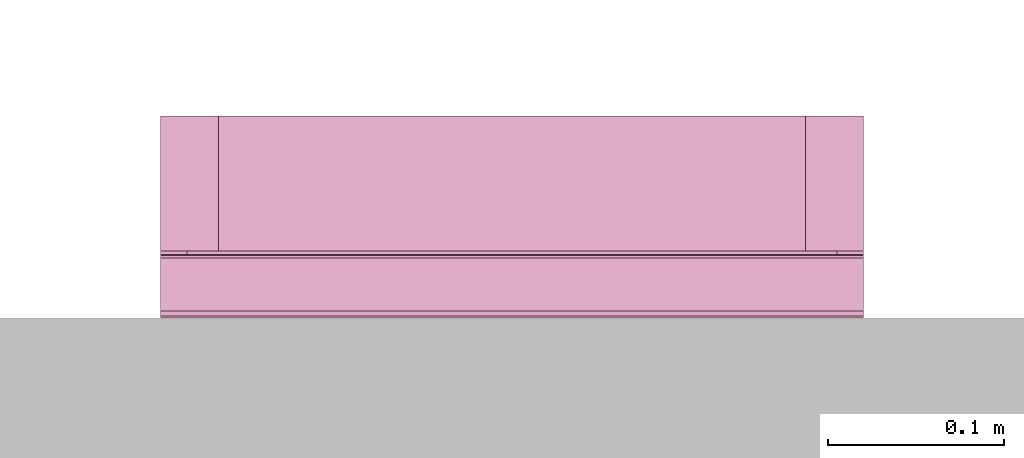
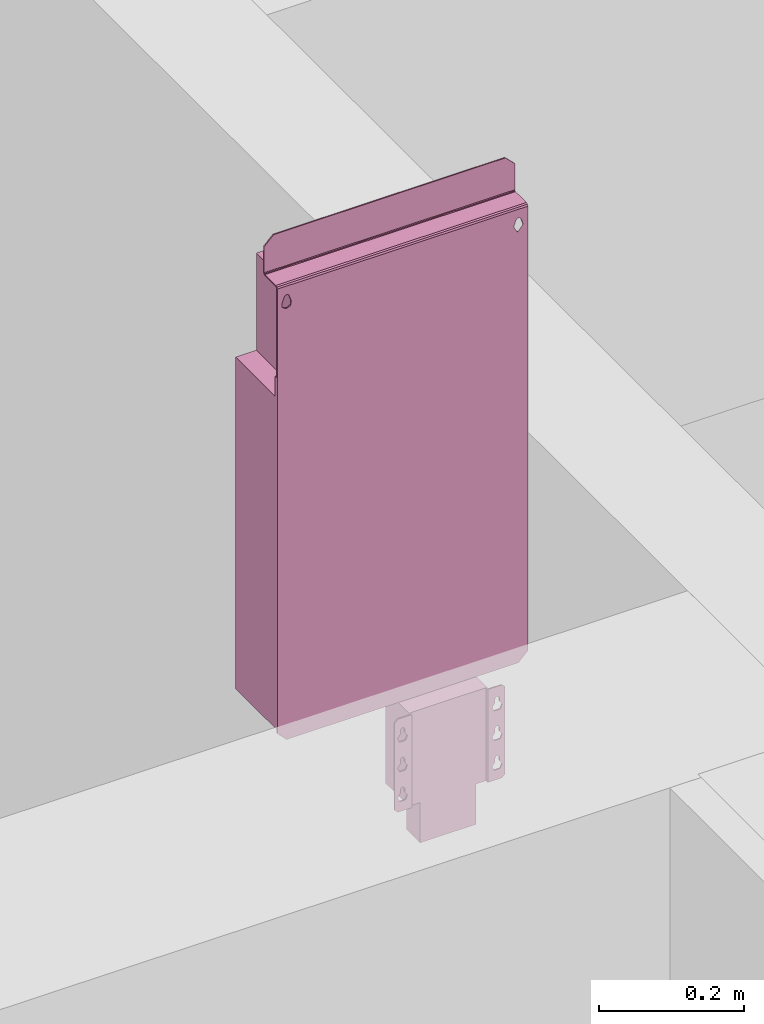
# One storey, part 14 of 14: 1 transport element.
"""IFC2X3 building model written with IfcOpenShell, lengths in millimetres."""

from ifc_helpers import new_model, entity, si_unit, converted_unit, derived_unit, direction, frame, origin, place, context, subcontext, project, spatial, faceted_brep, source, transform, mapped, type_object, type_shapes, element, save


model = new_model("IFC2X3")

# Units and contexts
model_context = context("Model", 3, precision=0.01, world=origin(), true_north=direction((6.12303176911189e-17, 1.0)))
body_context = subcontext(model_context, "Body", "Model", "MODEL_VIEW")
ifc_project = project(units=[si_unit("LENGTHUNIT", "METRE", prefix="MILLI"), si_unit("AREAUNIT", "SQUARE_METRE"), si_unit("VOLUMEUNIT", "CUBIC_METRE"), converted_unit("PLANEANGLEUNIT", "DEGREE", entity("IfcRatioMeasure", 0.0174532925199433), si_unit("PLANEANGLEUNIT", "RADIAN"), dimensions=[0, 0, 0, 0, 0, 0, 0]), si_unit("MASSUNIT", "GRAM", prefix="KILO"), derived_unit("MASSDENSITYUNIT", [(si_unit("MASSUNIT", "GRAM", prefix="KILO"), 1), (si_unit("LENGTHUNIT", "METRE"), -3)]), si_unit("TIMEUNIT", "SECOND"), si_unit("FREQUENCYUNIT", "HERTZ"), si_unit("THERMODYNAMICTEMPERATUREUNIT", "DEGREE_CELSIUS"), derived_unit("THERMALTRANSMITTANCEUNIT", [(si_unit("MASSUNIT", "GRAM", prefix="KILO"), 1), (si_unit("THERMODYNAMICTEMPERATUREUNIT", "KELVIN"), -1), (si_unit("TIMEUNIT", "SECOND"), -3)]), derived_unit("VOLUMETRICFLOWRATEUNIT", [(si_unit("LENGTHUNIT", "METRE"), 3), (si_unit("TIMEUNIT", "SECOND"), -1)]), si_unit("ELECTRICCURRENTUNIT", "AMPERE"), si_unit("ELECTRICVOLTAGEUNIT", "VOLT"), si_unit("POWERUNIT", "WATT"), si_unit("FORCEUNIT", "NEWTON", prefix="KILO"), si_unit("ILLUMINANCEUNIT", "LUX"), si_unit("LUMINOUSFLUXUNIT", "LUMEN"), si_unit("LUMINOUSINTENSITYUNIT", "CANDELA"), derived_unit("USERDEFINED", [(si_unit("MASSUNIT", "GRAM", prefix="KILO"), -1), (si_unit("LENGTHUNIT", "METRE"), -2), (si_unit("TIMEUNIT", "SECOND"), 3), (si_unit("LUMINOUSFLUXUNIT", "LUMEN"), 1)]), derived_unit("LINEARVELOCITYUNIT", [(si_unit("LENGTHUNIT", "METRE"), 1), (si_unit("TIMEUNIT", "SECOND"), -1)]), si_unit("PRESSUREUNIT", "PASCAL"), derived_unit("USERDEFINED", [(si_unit("LENGTHUNIT", "METRE"), -2), (si_unit("MASSUNIT", "GRAM", prefix="KILO"), 1), (si_unit("TIMEUNIT", "SECOND"), -2)])], contexts=[model_context])

# Site, building, storey, space
site_placement = place(None, frame((-151.875543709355, 2715.0, 0.0)))
site = spatial("IfcSite", under=ifc_project, at=site_placement, Name="Surface", CompositionType="ELEMENT")
building_placement = place(site_placement, origin())
building = spatial("IfcBuilding", under=site, at=building_placement, CompositionType="ELEMENT")
storey_placement = place(building_placement, frame((0.0, 0.0, 3875.0)))
storey = spatial("IfcBuildingStorey", under=building, at=storey_placement, Name="uus 2 korrus", CompositionType="ELEMENT", Elevation=3875.00000000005)
space_placement = place(storey_placement, origin())
space = spatial("IfcSpace", under=storey, at=space_placement, Name="226a", CompositionType="ELEMENT", InteriorOrExteriorSpace="INTERNAL")

# Transport element
transport_element_type = type_object("IfcTransportElementType", Name="KONE_DRIVE_KDL16S_M500_Wall_Fixed_Short_Backplate_KCE_LH")
shared_shape = source(origin(), body_context, "Body", "Brep", [
    faceted_brep([(-13.0, -932.0, 70.0), (-138.0, -932.0, 70.0), (-138.0, -932.0, 2.0), (-158.500000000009, -932.0, 2.0), (-158.500000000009, -932.0, 0.0), (-136.0, -932.0, 0.0), (-136.0, -932.0, 5.0), (-15.0, -932.0, 5.0), (-15.0, -932.0, 0.0), (7.50000000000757, -932.0, 0.0), (7.50000000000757, -932.0, 2.0), (-13.0, -932.0, 2.0), (-138.0, -775.0, 70.0), (-13.0, -775.0, 70.0), (-13.0, -775.0, 2.0), (7.50000000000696, -775.0, 2.0), (7.50000000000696, -775.0, 0.0), (-15.0, -775.0, 0.0), (-15.0, -775.0, 5.0), (-136.0, -775.0, 5.0), (-136.0, -775.0, 0.0), (-158.500000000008, -775.0, 0.0), (-158.500000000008, -775.0, 2.0), (-138.0, -775.0, 2.0), (-143.035081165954, -907.75162311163, 2.0), (-146.221250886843, -914.915883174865, 2.0), (-143.035081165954, -857.75162311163, 2.0), (-143.035081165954, -807.75162311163, 2.0), (-147.500000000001, -795.0, 2.0), (-149.250000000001, -791.968911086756, 2.0), (-152.750000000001, -791.968911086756, 2.0), (-163.500000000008, -780.0, 2.0), (-154.500000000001, -795.0, 2.0), (-158.964918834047, -807.75162311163, 2.0), (-158.964918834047, -857.75162311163, 2.0), (-163.500000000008, -927.0, 2.0), (-155.778749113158, -914.915883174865, 2.0), (-158.964918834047, -907.75162311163, 2.0), (-154.5, -895.0, 2.0), (-154.5, -901.306252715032, 2.0), (-155.778749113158, -864.915883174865, 2.0), (-152.75, -891.968911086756, 2.0), (-149.25, -891.968911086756, 2.0), (-146.221250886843, -864.915883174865, 2.0), (-147.5, -895.0, 2.0), (-147.5, -901.306252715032, 2.0), (-154.5, -845.0, 2.0), (-154.500000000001, -851.306252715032, 2.0), (-155.778749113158, -814.915883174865, 2.0), (-152.75, -841.968911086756, 2.0), (-146.221250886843, -814.915883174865, 2.0), (-149.25, -841.968911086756, 2.0), (-147.5, -845.0, 2.0), (-147.5, -851.306252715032, 2.0), (-147.5, -801.306252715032, 2.0), (-154.500000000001, -801.306252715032, 2.0), (12.5000000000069, -927.0, 2.0), (7.96491883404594, -907.75162311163, 2.0), (4.77874911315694, -914.915883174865, 2.0), (7.96491883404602, -857.75162311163, 2.0), (12.5000000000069, -780.0, 2.0), (7.9649188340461, -807.75162311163, 2.0), (3.4999999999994, -795.0, 2.0), (1.74999999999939, -791.968911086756, 2.0), (-1.75000000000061, -791.968911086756, 2.0), (-3.5000000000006, -795.0, 2.0), (-7.96491883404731, -807.75162311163, 2.0), (-7.9649188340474, -857.75162311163, 2.0), (-7.96491883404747, -907.75162311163, 2.0), (-4.77874911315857, -914.915883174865, 2.0), (-3.50000000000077, -895.0, 2.0), (-3.50000000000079, -901.306252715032, 2.0), (-4.77874911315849, -864.915883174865, 2.0), (-1.75000000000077, -891.968911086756, 2.0), (4.77874911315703, -864.915883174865, 2.0), (1.74999999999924, -891.968911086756, 2.0), (3.49999999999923, -895.0, 2.0), (3.49999999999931, -901.306252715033, 2.0), (-3.50000000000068, -845.0, 2.0), (-3.5000000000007, -851.306252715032, 2.0), (-4.77874911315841, -814.915883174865, 2.0), (-1.75000000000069, -841.968911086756, 2.0), (1.74999999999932, -841.968911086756, 2.0), (4.77874911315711, -814.915883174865, 2.0), (3.49999999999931, -845.0, 2.0), (3.4999999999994, -851.306252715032, 2.0), (-3.50000000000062, -801.306252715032, 2.0), (3.49999999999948, -801.306252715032, 2.0), (-163.500000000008, -927.0, 0.0), (-163.500000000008, -780.0, 0.0), (-158.964918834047, -907.75162311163, 0.0), (-155.778749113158, -914.915883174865, 0.0), (-158.964918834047, -857.75162311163, 0.0), (-158.964918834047, -807.75162311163, 0.0), (-154.500000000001, -795.0, 0.0), (-152.750000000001, -791.968911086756, 0.0), (-149.250000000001, -791.968911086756, 0.0), (-147.500000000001, -795.0, 0.0), (-143.035081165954, -807.75162311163, 0.0), (-143.035081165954, -857.75162311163, 0.0), (-143.035081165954, -907.75162311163, 0.0), (-146.221250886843, -914.915883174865, 0.0), (-147.5, -895.0, 0.0), (-147.5, -901.306252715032, 0.0), (-146.221250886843, -864.915883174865, 0.0), (-149.25, -891.968911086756, 0.0), (-155.778749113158, -864.915883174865, 0.0), (-152.75, -891.968911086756, 0.0), (-154.5, -895.0, 0.0), (-154.5, -901.306252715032, 0.0), (-147.5, -845.0, 0.0), (-147.5, -851.306252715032, 0.0), (-146.221250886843, -814.915883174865, 0.0), (-149.25, -841.968911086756, 0.0), (-152.75, -841.968911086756, 0.0), (-155.778749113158, -814.915883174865, 0.0), (-154.5, -845.0, 0.0), (-154.5, -851.306252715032, 0.0), (-147.500000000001, -801.306252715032, 0.0), (-154.500000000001, -801.306252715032, 0.0), (-7.96491883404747, -907.75162311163, 0.0), (-4.77874911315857, -914.915883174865, 0.0), (-7.9649188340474, -857.75162311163, 0.0), (-7.96491883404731, -807.75162311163, 0.0), (-3.5000000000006, -795.0, 0.0), (-1.75000000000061, -791.968911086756, 0.0), (1.74999999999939, -791.968911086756, 0.0), (12.5000000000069, -780.0, 0.0), (3.4999999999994, -795.0, 0.0), (7.9649188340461, -807.75162311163, 0.0), (7.96491883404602, -857.75162311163, 0.0), (12.5000000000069, -927.0, 0.0), (4.77874911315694, -914.915883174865, 0.0), (7.96491883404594, -907.75162311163, 0.0), (3.49999999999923, -895.0, 0.0), (3.49999999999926, -901.306252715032, 0.0), (4.77874911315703, -864.915883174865, 0.0), (1.74999999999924, -891.968911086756, 0.0), (-1.75000000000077, -891.968911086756, 0.0), (-4.77874911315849, -864.915883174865, 0.0), (-3.50000000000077, -895.0, 0.0), (-3.50000000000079, -901.306252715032, 0.0), (3.49999999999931, -845.0, 0.0), (3.49999999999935, -851.306252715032, 0.0), (4.77874911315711, -814.915883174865, 0.0), (1.74999999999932, -841.968911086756, 0.0), (-4.77874911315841, -814.915883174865, 0.0), (-1.75000000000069, -841.968911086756, 0.0), (-3.50000000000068, -845.0, 0.0), (-3.5000000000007, -851.306252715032, 0.0), (-3.50000000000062, -801.306252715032, 0.0), (3.49999999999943, -801.306252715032, 0.0)], [[[0, 1, 2, 3, 4, 5, 6, 7, 8, 9, 10, 11]], [[12, 13, 14, 15, 16, 17, 18, 19, 20, 21, 22, 23]], [[1, 0, 13, 12]], [[2, 1, 12, 23]], [[2, 24, 25]], [[24, 2, 26]], [[2, 25, 3]], [[2, 23, 26]], [[26, 23, 27]], [[27, 23, 28]], [[29, 28, 23]], [[23, 22, 29]], [[30, 29, 22]], [[31, 30, 22]], [[30, 31, 32]], [[31, 33, 32]], [[33, 31, 34]], [[35, 34, 31]], [[3, 36, 35]], [[35, 37, 34]], [[37, 35, 36]], [[36, 3, 25]], [[34, 37, 38]], [[38, 37, 39]], [[34, 38, 40]], [[38, 41, 40]], [[41, 42, 40]], [[40, 42, 43]], [[43, 42, 44]], [[24, 44, 45]], [[26, 43, 44]], [[26, 44, 24]], [[46, 33, 34]], [[34, 47, 46]], [[48, 33, 46]], [[49, 48, 46]], [[49, 50, 48]], [[49, 51, 50]], [[52, 50, 51]], [[26, 52, 53]], [[50, 52, 27]], [[27, 52, 26]], [[28, 54, 27]], [[32, 33, 55]], [[2, 24, 25]], [[24, 2, 26]], [[2, 25, 3]], [[2, 23, 26]], [[26, 23, 27]], [[27, 23, 28]], [[29, 28, 23]], [[23, 22, 29]], [[30, 29, 22]], [[31, 30, 22]], [[30, 31, 32]], [[31, 33, 32]], [[33, 31, 34]], [[35, 34, 31]], [[3, 36, 35]], [[35, 37, 34]], [[37, 35, 36]], [[36, 3, 25]], [[34, 37, 38]], [[38, 37, 39]], [[34, 38, 40]], [[38, 41, 40]], [[41, 42, 40]], [[40, 42, 43]], [[43, 42, 44]], [[24, 44, 45]], [[26, 43, 44]], [[26, 44, 24]], [[46, 33, 34]], [[34, 47, 46]], [[48, 33, 46]], [[49, 48, 46]], [[49, 50, 48]], [[49, 51, 50]], [[52, 50, 51]], [[26, 52, 53]], [[50, 52, 27]], [[27, 52, 26]], [[28, 54, 27]], [[32, 33, 55]], [[56, 57, 58]], [[57, 56, 59]], [[58, 10, 56]], [[56, 60, 59]], [[59, 60, 61]], [[62, 61, 60]], [[63, 62, 60]], [[60, 15, 63]], [[15, 64, 63]], [[64, 15, 14]], [[14, 65, 64]], [[66, 65, 14]], [[14, 67, 66]], [[11, 67, 14]], [[11, 68, 67]], [[68, 11, 69]], [[69, 11, 10]], [[10, 58, 69]], [[70, 67, 68]], [[71, 70, 68]], [[70, 72, 67]], [[72, 70, 73]], [[74, 72, 73]], [[74, 73, 75]], [[75, 76, 74]], [[59, 74, 76]], [[77, 57, 76]], [[76, 57, 59]], [[66, 67, 78]], [[79, 78, 67]], [[78, 80, 66]], [[80, 78, 81]], [[81, 82, 80]], [[83, 80, 82]], [[84, 83, 82]], [[61, 83, 84]], [[85, 59, 84]], [[59, 61, 84]], [[65, 66, 86]], [[87, 61, 62]], [[88, 35, 31, 89]], [[88, 90, 91]], [[90, 88, 92]], [[91, 4, 88]], [[88, 89, 92]], [[92, 89, 93]], [[94, 93, 89]], [[95, 94, 89]], [[89, 21, 95]], [[21, 96, 95]], [[96, 21, 20]], [[20, 97, 96]], [[98, 97, 20]], [[20, 99, 98]], [[5, 99, 20]], [[5, 100, 99]], [[100, 5, 101]], [[101, 5, 4]], [[4, 91, 101]], [[102, 99, 100]], [[103, 102, 100]], [[102, 104, 99]], [[104, 102, 105]], [[106, 104, 105]], [[106, 105, 107]], [[107, 108, 106]], [[92, 106, 108]], [[109, 90, 108]], [[108, 90, 92]], [[98, 99, 110]], [[111, 110, 99]], [[110, 112, 98]], [[112, 110, 113]], [[113, 114, 112]], [[115, 112, 114]], [[116, 115, 114]], [[93, 115, 116]], [[117, 92, 116]], [[92, 93, 116]], [[97, 98, 118]], [[119, 93, 94]], [[88, 90, 91]], [[90, 88, 92]], [[91, 4, 88]], [[88, 89, 92]], [[92, 89, 93]], [[94, 93, 89]], [[95, 94, 89]], [[89, 21, 95]], [[21, 96, 95]], [[96, 21, 20]], [[20, 97, 96]], [[98, 97, 20]], [[20, 99, 98]], [[5, 99, 20]], [[5, 100, 99]], [[100, 5, 101]], [[101, 5, 4]], [[4, 91, 101]], [[102, 99, 100]], [[103, 102, 100]], [[102, 104, 99]], [[104, 102, 105]], [[106, 104, 105]], [[106, 105, 107]], [[107, 108, 106]], [[92, 106, 108]], [[109, 90, 108]], [[108, 90, 92]], [[98, 99, 110]], [[111, 110, 99]], [[110, 112, 98]], [[112, 110, 113]], [[113, 114, 112]], [[115, 112, 114]], [[116, 115, 114]], [[93, 115, 116]], [[117, 92, 116]], [[92, 93, 116]], [[97, 98, 118]], [[119, 93, 94]], [[8, 120, 121]], [[120, 8, 122]], [[8, 121, 9]], [[8, 17, 122]], [[122, 17, 123]], [[123, 17, 124]], [[125, 124, 17]], [[17, 16, 125]], [[126, 125, 16]], [[127, 126, 16]], [[126, 127, 128]], [[127, 129, 128]], [[129, 127, 130]], [[131, 130, 127]], [[9, 132, 131]], [[131, 133, 130]], [[133, 131, 132]], [[132, 9, 121]], [[130, 133, 134]], [[134, 133, 135]], [[130, 134, 136]], [[134, 137, 136]], [[137, 138, 136]], [[136, 138, 139]], [[139, 138, 140]], [[120, 140, 141]], [[122, 139, 140]], [[122, 140, 120]], [[142, 129, 130]], [[130, 143, 142]], [[144, 129, 142]], [[145, 144, 142]], [[145, 146, 144]], [[145, 147, 146]], [[148, 146, 147]], [[122, 148, 149]], [[146, 148, 123]], [[123, 148, 122]], [[124, 150, 123]], [[128, 129, 151]], [[6, 5, 20, 19]], [[7, 6, 19, 18]], [[8, 7, 18, 17]], [[56, 131, 127, 60]], [[0, 11, 14, 13]], [[150, 124, 65, 86]], [[149, 148, 78, 79]], [[141, 140, 70, 71]], [[80, 146, 123, 66]], [[66, 123, 150, 86]], [[80, 83, 144, 146]], [[48, 50, 112, 115]], [[129, 144, 83, 61]], [[151, 129, 61, 87]], [[128, 151, 87, 62]], [[142, 143, 85, 84]], [[134, 135, 77, 76]], [[63, 126, 128, 62]], [[63, 64, 125, 126]], [[29, 30, 95, 96]], [[65, 124, 125, 64]], [[72, 139, 122, 67]], [[67, 122, 149, 79]], [[72, 74, 136, 139]], [[40, 43, 104, 106]], [[130, 136, 74, 59]], [[143, 130, 59, 85]], [[82, 145, 142, 84]], [[82, 81, 147, 145]], [[51, 49, 114, 113]], [[78, 148, 147, 81]], [[69, 121, 120, 68]], [[68, 120, 141, 71]], [[69, 58, 132, 121]], [[36, 25, 101, 91]], [[133, 132, 58, 57]], [[135, 133, 57, 77]], [[75, 137, 134, 76]], [[75, 73, 138, 137]], [[42, 41, 107, 105]], [[70, 140, 138, 73]], [[29, 96, 97, 28]], [[32, 94, 95, 30]], [[119, 94, 32, 55]], [[117, 116, 46, 47]], [[109, 108, 38, 39]], [[48, 115, 93, 33]], [[33, 93, 119, 55]], [[98, 112, 50, 27]], [[118, 98, 27, 54]], [[97, 118, 54, 28]], [[110, 111, 53, 52]], [[102, 103, 45, 44]], [[51, 113, 110, 52]], [[46, 116, 114, 49]], [[40, 106, 92, 34]], [[34, 92, 117, 47]], [[99, 104, 43, 26]], [[111, 99, 26, 53]], [[42, 105, 102, 44]], [[38, 108, 107, 41]], [[36, 91, 90, 37]], [[37, 90, 109, 39]], [[100, 101, 25, 24]], [[103, 100, 24, 45]], [[127, 16, 15, 60]], [[89, 31, 22, 21]], [[131, 56, 10, 9]], [[4, 3, 35, 88]]]),
    faceted_brep([(-31.0, -1000.0, 43.0), (-120.0, -1000.0, 43.0), (-120.0, -1000.0, 5.0), (-31.0, -1000.0, 5.0), (-31.0, -932.0, 43.0), (-31.0, -932.0, 5.0), (-120.0, -932.0, 5.0), (-120.0, -932.0, 43.0)], [[[0, 1, 2, 3]], [[4, 5, 6, 7]], [[1, 0, 4, 7]], [[2, 1, 7, 6]], [[3, 2, 6, 5]], [[0, 3, 5, 4]]]),
    faceted_brep([(-200.0, 18.0, 2.0), (-200.0, 19.4142135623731, 2.58578643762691), (-200.0, 20.0, 4.0), (-200.0, 20.0, 34.0), (-200.0, 21.1715728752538, 36.8284271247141), (-200.0, 24.0, 38.0), (-200.0, 68.0, 38.0), (-200.0, 68.0, 36.0), (-200.0, 24.0, 36.0), (-200.0, 22.5857864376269, 35.414213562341), (-200.0, 22.0, 34.0), (-200.0, 22.0, 4.0), (-200.0, 20.8284271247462, 1.17157287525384), (-200.0, 18.0, 0.0), (-200.0, -732.0, 0.0), (-200.0, -732.0, 2.0), (200.0, 68.0, 36.0), (200.0, 68.0, 38.0), (200.0, 24.0, 38.0), (200.0, 21.171572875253, 36.8284271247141), (200.0, 20.0, 34.0), (200.0, 20.0, 4.0), (200.0, 19.4142135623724, 2.58578643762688), (200.0, 18.0, 2.0), (200.0, -732.0, 2.0), (200.0, -732.0, 0.0), (200.0, 18.0, 0.0), (200.0, 20.8284271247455, 1.17157287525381), (200.0, 22.0, 4.0), (200.0, 22.0, 34.0), (200.0, 22.5857864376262, 35.414213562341), (200.0, 24.0, 36.0), (185.0, 83.0, 38.0), (-185.0, 83.0, 38.0), (-185.0, 83.0, 36.0), (185.0, 83.0, 36.0), (-188.771239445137, 1.33332405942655, 0.0), (-192.549485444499, -9.35325302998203, 0.0), (-186.890914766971, 3.52483210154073, 0.0), (-183.10908523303, 3.52483210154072, 0.0), (183.109085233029, 3.52483210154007, 0.0), (186.89091476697, 3.52483210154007, 0.0), (188.771239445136, 1.33332405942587, 0.0), (192.549485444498, -9.35325302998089, 0.0), (192.285006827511, -15.3058547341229, 0.0), (-185.0, -747.0, 0.0), (-183.292402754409, -19.8156325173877, 0.0), (185.0, -747.0, 0.0), (178.781427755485, -17.0328281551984, 0.0), (186.014854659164, -19.9353682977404, 0.0), (181.228760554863, 1.33332405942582, 0.0), (-181.228760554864, 1.33332405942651, 0.0), (-177.464580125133, -9.31346928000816, 0.0), (177.450514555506, -9.3532530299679, 0.0), (-185.0, -747.0, 2.0), (185.0, -747.0, 2.0), (-192.281515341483, -15.3135380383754, 2.0), (-192.549485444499, -9.35325302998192, 2.0), (-188.771239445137, 1.33332405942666, 2.0), (-186.890914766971, 3.52483210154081, 2.0), (-183.10908523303, 3.52483210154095, 2.0), (183.109085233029, 3.52483210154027, 2.0), (-185.995318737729, -19.9378423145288, 2.0), (-178.762007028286, -17.0087367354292, 2.0), (183.985145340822, -19.9353682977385, 2.0), (191.218572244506, -17.032828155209, 2.0), (186.890914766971, 3.52483210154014, 2.0), (192.549485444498, -9.3532530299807, 2.0), (188.771239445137, 1.33332405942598, 2.0), (177.714993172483, -15.3058547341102, 2.0), (-177.464580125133, -9.313469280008, 2.0), (177.450514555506, -9.35325302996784, 2.0), (181.228760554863, 1.33332405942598, 2.0), (-181.228760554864, 1.33332405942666, 2.0)], [[[0, 1, 2, 3, 4, 5, 6, 7, 8, 9, 10, 11, 12, 13, 14, 15]], [[16, 17, 18, 19, 20, 21, 22, 23, 24, 25, 26, 27, 28, 29, 30, 31]], [[6, 5, 18, 17, 32, 33]], [[34, 33, 32, 35]], [[8, 7, 34, 35, 16, 31]], [[30, 9, 8, 31]], [[29, 10, 9, 30]], [[11, 10, 29, 28]], [[28, 27, 12, 11]], [[12, 27, 26, 13]], [[13, 36, 37]], [[36, 13, 38]], [[39, 38, 13]], [[37, 14, 13]], [[39, 13, 40]], [[40, 13, 26]], [[26, 41, 40]], [[41, 26, 42]], [[42, 26, 43]], [[43, 26, 44]], [[44, 26, 25]], [[25, 45, 14]], [[14, 46, 25]], [[45, 25, 47]], [[25, 46, 48]], [[25, 48, 49]], [[44, 25, 49]], [[40, 50, 39]], [[51, 39, 50]], [[50, 52, 51]], [[50, 53, 52]], [[52, 53, 48]], [[48, 46, 52]], [[46, 14, 37]], [[54, 45, 47, 55]], [[0, 15, 56]], [[0, 56, 57]], [[58, 0, 57]], [[0, 58, 59]], [[0, 59, 60]], [[0, 60, 61]], [[61, 23, 0]], [[56, 15, 62]], [[15, 63, 62]], [[64, 63, 15]], [[15, 24, 64]], [[24, 15, 54]], [[55, 24, 54]], [[24, 65, 64]], [[65, 24, 23]], [[61, 66, 23]], [[23, 67, 65]], [[68, 67, 23]], [[68, 23, 66]], [[69, 63, 64]], [[70, 63, 69]], [[71, 70, 69]], [[71, 72, 70]], [[73, 70, 72]], [[60, 73, 72]], [[72, 61, 60]], [[22, 1, 0, 23]], [[21, 2, 1, 22]], [[3, 2, 21, 20]], [[20, 19, 4, 3]], [[4, 19, 18, 5]], [[37, 36, 58, 57]], [[62, 46, 56]], [[37, 56, 46]], [[37, 57, 56]], [[63, 52, 46]], [[52, 63, 70]], [[62, 63, 46]], [[51, 52, 70, 73]], [[60, 39, 51, 73]], [[60, 59, 38, 39]], [[66, 61, 40, 41]], [[58, 36, 38, 59]], [[66, 41, 42, 68]], [[72, 50, 40, 61]], [[53, 50, 72, 71]], [[69, 48, 53]], [[71, 69, 53]], [[64, 48, 69]], [[64, 49, 48]], [[65, 44, 49]], [[65, 67, 44]], [[43, 44, 67]], [[64, 65, 49]], [[42, 43, 67, 68]], [[16, 35, 32, 17]], [[25, 24, 55, 47]], [[34, 7, 6, 33]], [[45, 54, 15, 14]]]),
    faceted_brep([(167.0, -166.127388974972, 115.0), (167.0, -2.0, 115.0), (-167.0, -2.0, 115.0), (-167.0, -166.127388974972, 115.0), (167.0, -166.127388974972, 6.0), (-167.0, -166.127388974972, 6.0), (-167.0, -2.0, 6.0), (167.0, -2.0, 6.0)], [[[0, 1, 2, 3]], [[4, 5, 6, 7]], [[1, 0, 4, 7]], [[2, 1, 7, 6]], [[3, 2, 6, 5]], [[0, 3, 5, 4]]]),
    faceted_brep([(200.0, -132.6, 6.0), (182.500000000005, -146.269872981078, 6.0), (185.0, -150.6, 6.0), (177.500000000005, -146.269872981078, 6.0), (182.500000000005, -154.930127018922, 6.0), (-177.499999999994, -146.269872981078, 6.0), (187.500000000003, -683.669872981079, 6.0), (190.0, -688.0, 6.0), (200.0, -726.0, 6.0), (-200.0, -132.6, 6.0), (-182.499999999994, -146.269872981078, 6.0), (-185.0, -150.6, 6.0), (-182.499999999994, -154.930127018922, 6.0), (-187.499999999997, -683.669872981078, 6.0), (-190.0, -688.0, 6.0), (-200.0, -726.0, 6.0), (-182.499999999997, -692.330127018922, 6.0), (-187.499999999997, -692.330127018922, 6.0), (-182.499999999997, -683.669872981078, 6.0), (-177.499999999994, -154.930127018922, 6.0), (182.500000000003, -683.669872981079, 6.0), (180.0, -688.0, 6.0), (-180.0, -688.0, 6.0), (182.500000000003, -692.330127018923, 6.0), (187.500000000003, -692.330127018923, 6.0), (177.500000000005, -154.930127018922, 6.0), (175.0, -150.6, 6.0), (-175.0, -150.6, 6.0), (-200.0, -132.6, 2.0), (-182.499999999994, -146.269872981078, 2.0), (-185.0, -150.6, 2.0), (-177.499999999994, -146.269872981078, 2.0), (-182.499999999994, -154.930127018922, 2.0), (177.500000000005, -146.269872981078, 2.0), (-187.499999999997, -683.669872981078, 2.0), (-190.0, -688.0, 2.0), (-200.0, -726.0, 2.0), (200.0, -132.6, 2.0), (182.500000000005, -146.269872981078, 2.0), (185.0, -150.6, 2.0), (182.500000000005, -154.930127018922, 2.0), (187.500000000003, -683.669872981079, 2.0), (190.0, -688.0, 2.0), (200.0, -726.0, 2.0), (182.500000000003, -692.330127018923, 2.0), (187.500000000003, -692.330127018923, 2.0), (182.500000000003, -683.669872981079, 2.0), (177.500000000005, -154.930127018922, 2.0), (-182.499999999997, -683.669872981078, 2.0), (-180.0, -688.0, 2.0), (180.0, -688.0, 2.0), (-182.499999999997, -692.330127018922, 2.0), (-187.499999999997, -692.330127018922, 2.0), (-177.499999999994, -154.930127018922, 2.0), (-175.0, -150.6, 2.0), (175.0, -150.6, 2.0)], [[[0, 1, 2]], [[1, 0, 3]], [[0, 2, 4]], [[0, 5, 3]], [[0, 4, 6]], [[7, 0, 6]], [[7, 8, 0]], [[5, 0, 9]], [[9, 10, 5]], [[10, 9, 11]], [[12, 11, 9]], [[9, 13, 12]], [[14, 13, 9]], [[14, 9, 15]], [[16, 15, 8]], [[17, 15, 16]], [[15, 17, 14]], [[18, 12, 13]], [[19, 12, 18]], [[18, 20, 19]], [[21, 20, 18]], [[22, 21, 18]], [[22, 23, 21]], [[16, 23, 22]], [[8, 24, 23]], [[8, 23, 16]], [[4, 25, 20]], [[20, 25, 19]], [[20, 6, 4]], [[25, 26, 19]], [[19, 26, 27]], [[5, 27, 3]], [[26, 3, 27]], [[8, 7, 24]], [[28, 29, 30]], [[29, 28, 31]], [[28, 30, 32]], [[28, 33, 31]], [[28, 32, 34]], [[35, 28, 34]], [[35, 36, 28]], [[33, 28, 37]], [[37, 38, 33]], [[38, 37, 39]], [[40, 39, 37]], [[37, 41, 40]], [[42, 41, 37]], [[42, 37, 43]], [[44, 43, 36]], [[45, 43, 44]], [[43, 45, 42]], [[46, 40, 41]], [[47, 40, 46]], [[46, 48, 47]], [[49, 48, 46]], [[50, 49, 46]], [[50, 51, 49]], [[44, 51, 50]], [[36, 52, 51]], [[36, 51, 44]], [[32, 53, 48]], [[48, 53, 47]], [[48, 34, 32]], [[53, 54, 47]], [[47, 54, 55]], [[33, 55, 31]], [[54, 31, 55]], [[36, 35, 52]], [[9, 0, 37, 28]], [[15, 9, 28, 36]], [[8, 15, 36, 43]], [[0, 8, 43, 37]], [[12, 32, 30, 11]], [[12, 19, 53, 32]], [[25, 4, 40, 47]], [[27, 54, 53, 19]], [[5, 31, 54, 27]], [[5, 10, 29, 31]], [[1, 3, 33, 38]], [[11, 30, 29, 10]], [[25, 47, 55, 26]], [[2, 39, 40, 4]], [[1, 38, 39, 2]], [[26, 55, 33, 3]], [[17, 52, 35, 14]], [[17, 16, 51, 52]], [[23, 24, 45, 44]], [[22, 49, 51, 16]], [[18, 48, 49, 22]], [[18, 13, 34, 48]], [[6, 20, 46, 41]], [[14, 35, 34, 13]], [[23, 44, 50, 21]], [[7, 42, 45, 24]], [[6, 41, 42, 7]], [[21, 50, 46, 20]]]),
    faceted_brep([(200.0, -166.127388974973, 6.0), (-200.0, -166.127388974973, 6.0), (-200.0, -166.127388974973, 115.0), (200.0, -166.127388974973, 115.0), (200.0, -726.0, 6.0), (200.0, -726.0, 115.0), (-200.0, -726.0, 115.0), (-200.0, -726.0, 6.0)], [[[0, 1, 2, 3]], [[4, 5, 6, 7]], [[1, 0, 4, 7]], [[2, 1, 7, 6]], [[3, 2, 6, 5]], [[0, 3, 5, 4]]]),
])
type_shapes(transport_element_type, [shared_shape])
transport_element_placement = place(space_placement, frame((31356.6177671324, 19660.0, 4515.0), z_axis=(0.0, 1.0, 0.0), x_axis=(-1.0, 0.0, 0.0)))
element("IfcTransportElement", 1, at=transport_element_placement, inside=space, type_object=transport_element_type, Name="KONE_DRIVE_KDL16S_M500_Wall_Fixed_Short_Backplate_KCE_LH:KONE_DRIVE_KDL16S_M500_Wall_Fixed_Short_Backplate_KCE_LH", ObjectType="KONE_DRIVE_KDL16S_M500_Wall_Fixed_Short_Backplate_KCE_LH", CapacityByNumber=0.0, CapacityByWeight=0.0, OperationType="ELEVATOR", context=body_context, shape_type="MappedRepresentation", body=[
    mapped(shared_shape, transform((0.0, 0.0, 0.0), scale=1.0)),
])

save(model, "model.ifc")
